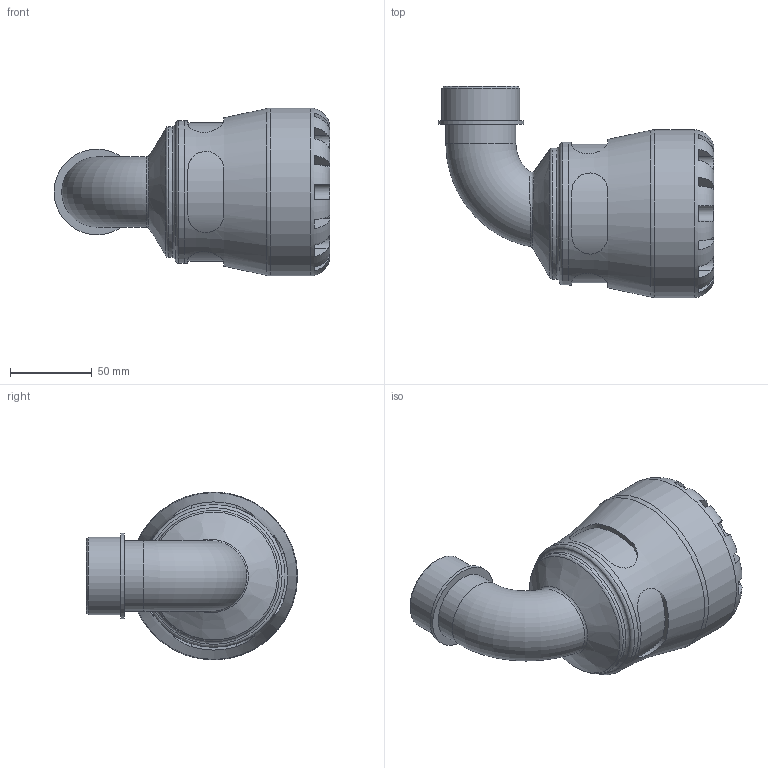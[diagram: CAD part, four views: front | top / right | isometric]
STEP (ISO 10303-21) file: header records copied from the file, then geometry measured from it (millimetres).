
FILE_DESCRIPTION(/* description */ ('PLASSON 90° ELBOW WITH THREADED MALE OFFTAKE 63X1.1/2" SERIES 1'),/* implementation_level */ '2;1');
FILE_NAME(/* name */ 'C:\Dropbox\KIMPROJECTS-Inventor\99-16-3568-Processing\S1\27.01.19\1085\108500063015_198500063015.ipt.stp',/* time_stamp */ '2019-01-27T09:13:43+02:00',/* author */ ('KIM'),/* organization */ (''),/* preprocessor_version */ 'ST-DEVELOPER v15.6',/* originating_system */ 'Autodesk Inventor 2015',/* authorisation */ '');
FILE_SCHEMA (('AUTOMOTIVE_DESIGN { 1 0 10303 214 3 1 1 }'));
Length unit declared in the file: millimetre
Products named in the file (1): 108500063015_198500063015
Bounding box: 169.29 x 129.5 x 103 mm (x, y, z)
Volume: 494154 mm3; surface area: 88624.6 mm2
Topology: 1 solids, 1 shells, 110 faces, 269 edges, 167 vertices
Faces by surface type: plane 61, cylinder 37, torus 7, bspline 3, cone 2
Full cylindrical faces by diameter (mm): 33.462 x2, 43.023 x1, 47.803 x1, 52.583 x1, 63 x1, 80.34 x1, 87.55 x1, 103 x1
Entity records: 4376 total; most frequent: CARTESIAN_POINT 1836, ORIENTED_EDGE 488, DIRECTION 487, EDGE_CURVE 244, AXIS2_PLACEMENT_3D 203, VERTEX_POINT 161, EDGE_LOOP 137, STYLED_ITEM 111
